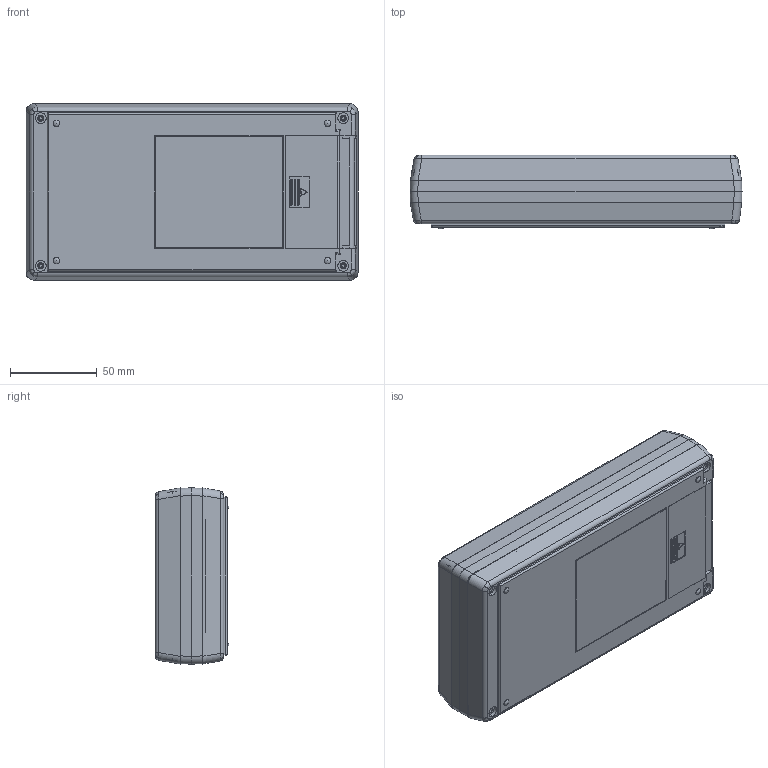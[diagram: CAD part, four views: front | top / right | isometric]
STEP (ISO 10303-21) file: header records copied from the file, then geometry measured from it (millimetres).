
FILE_DESCRIPTION (( 'STEP AP214' ), '1' );
FILE_NAME ('100-41-9V-E-R.STEP', '2019-11-30T00:30:08', ( 'Rudy' ), ( '' ), 'SwSTEP 2.0', 'SolidWorks 2014', '' );
FILE_SCHEMA (( 'AUTOMOTIVE_DESIGN' ));
Length unit declared in the file: inch
Products named in the file (5): 100-01 BOT-9V; 100-41-9V-E-R; 9Vdoor; 100-06 EXPANDER; 100-04-recessed Top
Assembly tree (4 placements, depth 2):
  100-41-9V-E-R
    100-01 BOT-9V
    100-04-recessed Top
    100-06 EXPANDER
    9Vdoor
Bounding box: 191 x 42.4 x 101.4 mm (x, y, z)
Volume: 139701.3 mm3; surface area: 143268.6 mm2
Topology: 4 solids, 4 shells, 781 faces, 2048 edges, 1272 vertices
Faces by surface type: plane 426, cylinder 249, bspline 44, cone 42, torus 12, sphere 8
Entity records: 25388 total; most frequent: CARTESIAN_POINT 6865, ORIENTED_EDGE 4016, DIRECTION 3537, EDGE_CURVE 2008, LINE 1323, VECTOR 1323, VERTEX_POINT 1264, AXIS2_PLACEMENT_3D 1107
